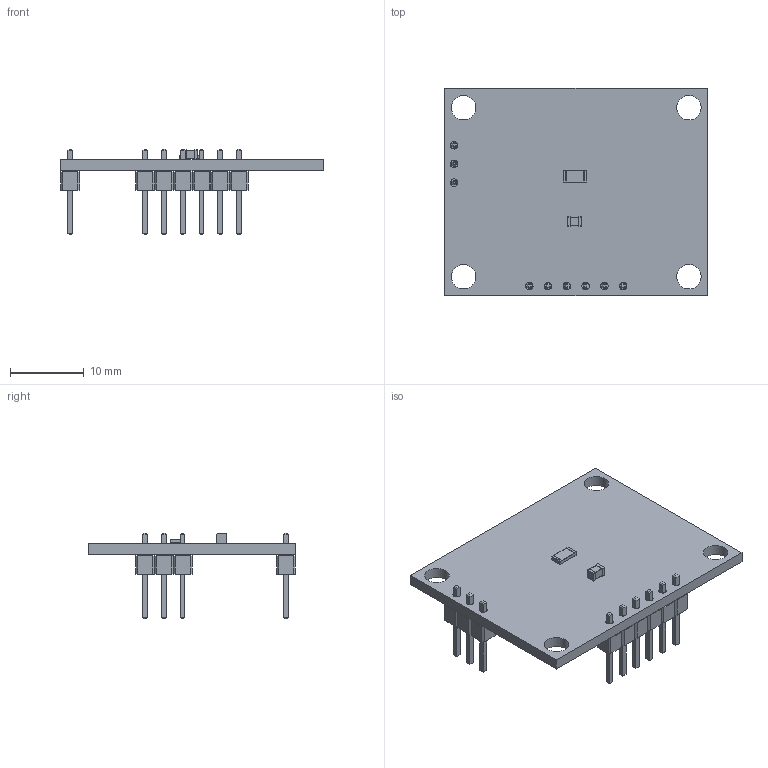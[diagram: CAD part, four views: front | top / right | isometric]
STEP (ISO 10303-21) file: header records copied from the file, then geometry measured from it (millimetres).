
FILE_DESCRIPTION(('KiCad electronic assembly'),'2;1');
FILE_NAME('Breakout_SEN12650.step','2025-03-28T10:14:56',('Pcbnew'),( 'Kicad'),'Open CASCADE STEP processor 7.8','KiCad to STEP converter' ,'Unknown');
FILE_SCHEMA(('AUTOMOTIVE_DESIGN { 1 0 10303 214 1 1 1 1 }'));
Length unit declared in the file: millimetre
Products named in the file (6): Breakout_SEN12650 1; R_1206_3216Metric; C_0805_2012Metric; PinHeader_1x06_P2.54mm_Vertical; PinHeader_1x03_P2.54mm_Vertical; Breakout_SEN12650_PCB
Assembly tree (5 placements, depth 2):
  Breakout_SEN12650 1
    R_1206_3216Metric
    C_0805_2012Metric
    PinHeader_1x06_P2.54mm_Vertical
    PinHeader_1x03_P2.54mm_Vertical
    Breakout_SEN12650_PCB
Bounding box: 35.5 x 28 x 11.54 mm (x, y, z)
Volume: 1620.8 mm3; surface area: 2693.7 mm2
Topology: 5 solids, 5 shells, 315 faces, 779 edges, 494 vertices
Faces by surface type: plane 264, cylinder 51
Full cylindrical faces by diameter (mm): 3.302 x4
Entity records: 11236 total; most frequent: CARTESIAN_POINT 1594, ORIENTED_EDGE 1558, DIRECTION 1523, EDGE_CURVE 779, LINE 677, VECTOR 677, VERTEX_POINT 494, AXIS2_PLACEMENT_3D 423
